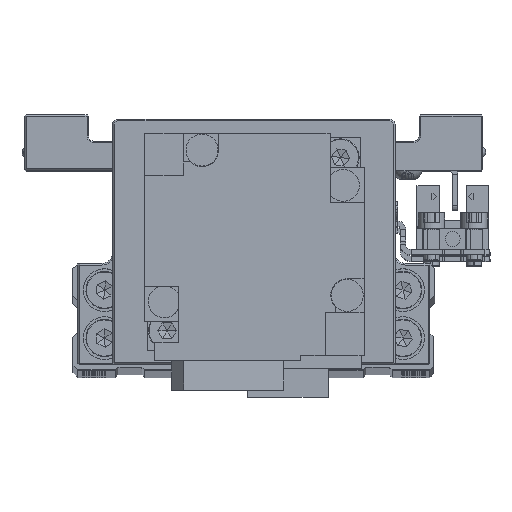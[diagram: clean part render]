
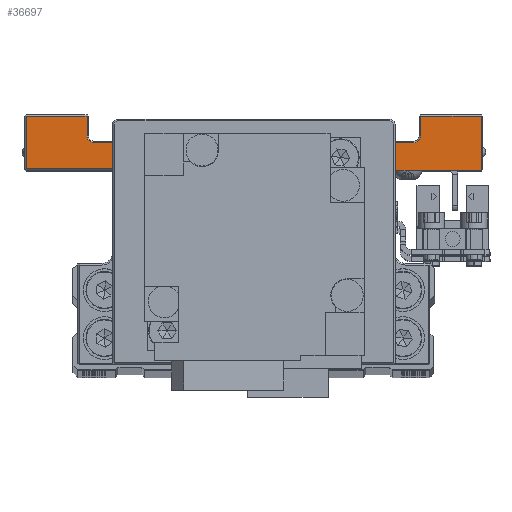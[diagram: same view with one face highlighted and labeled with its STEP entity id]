
A CAD part, top view. The second image highlights one B-rep face of the part: STEP entity #36697.
In plain terms, the highlighted planar face has unit normal (0, 0, 1) as drawn and (1, 0, 0) by its records, which use the part's own axes.
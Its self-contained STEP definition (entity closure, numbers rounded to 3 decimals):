
#58 = CIRCLE ( 'NONE', #21647, 1.3 ) ;
#480 = VERTEX_POINT ( 'NONE', #8714 ) ;
#888 = DIRECTION ( 'NONE',  ( -1., 0., 0. ) ) ;
#959 = EDGE_CURVE ( 'NONE', #33528, #6989, #2004, .T. ) ;
#1001 = CARTESIAN_POINT ( 'NONE',  ( 45., 7.5, -19.7 ) ) ;
#1495 = VECTOR ( 'NONE', #25555, 1000. ) ;
#1501 = VECTOR ( 'NONE', #26726, 1000. ) ;
#1578 = DIRECTION ( 'NONE',  ( 0., 0., 1. ) ) ;
#2004 = LINE ( 'NONE', #13766, #1495 ) ;
#2280 = VERTEX_POINT ( 'NONE', #33688 ) ;
#2462 = AXIS2_PLACEMENT_3D ( 'NONE', #35880, #9461, #21274 ) ;
#2513 = DIRECTION ( 'NONE',  ( 0., 0., -1. ) ) ;
#2993 = CARTESIAN_POINT ( 'NONE',  ( 45., 12.7, -30. ) ) ;
#3002 = VERTEX_POINT ( 'NONE', #6559 ) ;
#3179 = LINE ( 'NONE', #14953, #1501 ) ;
#3183 = ORIENTED_EDGE ( 'NONE', *, *, #5054, .T. ) ;
#3766 = VECTOR ( 'NONE', #33837, 1000. ) ;
#3843 = CARTESIAN_POINT ( 'NONE',  ( 45., 7.5, 42.7 ) ) ;
#4781 = DIRECTION ( 'NONE',  ( 0., 1., 0. ) ) ;
#5054 = EDGE_CURVE ( 'NONE', #8580, #12825, #16242, .T. ) ;
#5564 = CARTESIAN_POINT ( 'NONE',  ( 45., 17.7, -31.3 ) ) ;
#5930 = CARTESIAN_POINT ( 'NONE',  ( 45., 7.5, 31.3 ) ) ;
#6156 = LINE ( 'NONE', #17954, #26961 ) ;
#6494 = ORIENTED_EDGE ( 'NONE', *, *, #959, .T. ) ;
#6559 = CARTESIAN_POINT ( 'NONE',  ( 45., 7.8, 19.7 ) ) ;
#6834 = VERTEX_POINT ( 'NONE', #16400 ) ;
#6989 = VERTEX_POINT ( 'NONE', #5564 ) ;
#7083 = VECTOR ( 'NONE', #19714, 1000. ) ;
#7780 = DIRECTION ( 'NONE',  ( 0., 0., 1. ) ) ;
#7913 = CARTESIAN_POINT ( 'NONE',  ( 45., 7.5, 43. ) ) ;
#7927 = LINE ( 'NONE', #19727, #24070 ) ;
#8016 = CARTESIAN_POINT ( 'NONE',  ( 45., 7.5, -42.7 ) ) ;
#8580 = VERTEX_POINT ( 'NONE', #16364 ) ;
#8714 = CARTESIAN_POINT ( 'NONE',  ( 45., 12.7, 30. ) ) ;
#9210 = AXIS2_PLACEMENT_3D ( 'NONE', #22480, #34205, #7780 ) ;
#9311 = VERTEX_POINT ( 'NONE', #8016 ) ;
#9461 = DIRECTION ( 'NONE',  ( -1., 0., 0. ) ) ;
#9990 = EDGE_CURVE ( 'NONE', #12825, #6834, #30290, .T. ) ;
#10087 = EDGE_CURVE ( 'NONE', #9311, #33528, #19484, .T. ) ;
#10301 = LINE ( 'NONE', #22114, #3766 ) ;
#10673 = PLANE ( 'NONE',  #9210 ) ;
#12245 = EDGE_CURVE ( 'NONE', #32296, #21156, #10301, .T. ) ;
#12648 = DIRECTION ( 'NONE',  ( 0., 0., 1. ) ) ;
#12762 = DIRECTION ( 'NONE',  ( 0., 1., 0. ) ) ;
#12825 = VERTEX_POINT ( 'NONE', #13739 ) ;
#13481 = ORIENTED_EDGE ( 'NONE', *, *, #32892, .T. ) ;
#13739 = CARTESIAN_POINT ( 'NONE',  ( 45., 17.7, 42.7 ) ) ;
#13766 = CARTESIAN_POINT ( 'NONE',  ( 45., 17.7, -20. ) ) ;
#14446 = CARTESIAN_POINT ( 'NONE',  ( 45., 14., 31.3 ) ) ;
#14953 = CARTESIAN_POINT ( 'NONE',  ( 45., 12.7, 30. ) ) ;
#15630 = DIRECTION ( 'NONE',  ( 0., -1., 0. ) ) ;
#16242 = LINE ( 'NONE', #28018, #37793 ) ;
#16364 = CARTESIAN_POINT ( 'NONE',  ( 45., 17.7, 31.3 ) ) ;
#16400 = CARTESIAN_POINT ( 'NONE',  ( 45., 7.8, 42.7 ) ) ;
#17188 = LINE ( 'NONE', #28952, #20796 ) ;
#17479 = VERTEX_POINT ( 'NONE', #14446 ) ;
#17720 = DIRECTION ( 'NONE',  ( 0., 1., 0. ) ) ;
#17954 = CARTESIAN_POINT ( 'NONE',  ( 45., 7.5, -31.3 ) ) ;
#17985 = ORIENTED_EDGE ( 'NONE', *, *, #27212, .T. ) ;
#18444 = VECTOR ( 'NONE', #4781, 1000. ) ;
#19108 = CIRCLE ( 'NONE', #2462, 1.3 ) ;
#19484 = LINE ( 'NONE', #31221, #18444 ) ;
#19714 = DIRECTION ( 'NONE',  ( 0., 0., -1. ) ) ;
#19727 = CARTESIAN_POINT ( 'NONE',  ( 45., 7.5, 19.7 ) ) ;
#20030 = ORIENTED_EDGE ( 'NONE', *, *, #37193, .T. ) ;
#20796 = VECTOR ( 'NONE', #2513, 1000. ) ;
#21156 = VERTEX_POINT ( 'NONE', #22270 ) ;
#21274 = DIRECTION ( 'NONE',  ( 0., 0., 1. ) ) ;
#21647 = AXIS2_PLACEMENT_3D ( 'NONE', #27319, #888, #12648 ) ;
#21799 = ORIENTED_EDGE ( 'NONE', *, *, #31466, .T. ) ;
#22114 = CARTESIAN_POINT ( 'NONE',  ( 45., -8.2, -20. ) ) ;
#22270 = CARTESIAN_POINT ( 'NONE',  ( 45., -8.2, -19.7 ) ) ;
#22311 = EDGE_CURVE ( 'NONE', #2280, #27671, #19108, .T. ) ;
#22480 = CARTESIAN_POINT ( 'NONE',  ( 45., 7.5, -20. ) ) ;
#23637 = EDGE_CURVE ( 'NONE', #21156, #31368, #27437, .T. ) ;
#24070 = VECTOR ( 'NONE', #31469, 1000. ) ;
#24848 = ORIENTED_EDGE ( 'NONE', *, *, #22311, .T. ) ;
#24954 = ORIENTED_EDGE ( 'NONE', *, *, #32252, .T. ) ;
#25555 = DIRECTION ( 'NONE',  ( 0., 0., 1. ) ) ;
#26726 = DIRECTION ( 'NONE',  ( 0., 0., 1. ) ) ;
#26961 = VECTOR ( 'NONE', #29711, 1000. ) ;
#27212 = EDGE_CURVE ( 'NONE', #6834, #3002, #17188, .T. ) ;
#27316 = EDGE_CURVE ( 'NONE', #6989, #2280, #6156, .T. ) ;
#27319 = CARTESIAN_POINT ( 'NONE',  ( 45., 14., 30. ) ) ;
#27437 = LINE ( 'NONE', #1001, #31546 ) ;
#27671 = VERTEX_POINT ( 'NONE', #2993 ) ;
#27835 = CARTESIAN_POINT ( 'NONE',  ( 45., 17.7, -42.7 ) ) ;
#28018 = CARTESIAN_POINT ( 'NONE',  ( 45., 17.7, -20. ) ) ;
#28904 = VECTOR ( 'NONE', #15630, 1000. ) ;
#28952 = CARTESIAN_POINT ( 'NONE',  ( 45., 7.8, 20. ) ) ;
#29203 = ORIENTED_EDGE ( 'NONE', *, *, #27316, .T. ) ;
#29711 = DIRECTION ( 'NONE',  ( 0., -1., 0. ) ) ;
#29936 = VECTOR ( 'NONE', #17720, 1000. ) ;
#30075 = ORIENTED_EDGE ( 'NONE', *, *, #9990, .T. ) ;
#30290 = LINE ( 'NONE', #3843, #28904 ) ;
#31221 = CARTESIAN_POINT ( 'NONE',  ( 45., 7.5, -42.7 ) ) ;
#31368 = VERTEX_POINT ( 'NONE', #34985 ) ;
#31466 = EDGE_CURVE ( 'NONE', #27671, #480, #3179, .T. ) ;
#31469 = DIRECTION ( 'NONE',  ( 0., -1., 0. ) ) ;
#31546 = VECTOR ( 'NONE', #12762, 1000. ) ;
#31637 = CARTESIAN_POINT ( 'NONE',  ( 45., -8.2, 19.7 ) ) ;
#31802 = ORIENTED_EDGE ( 'NONE', *, *, #12245, .T. ) ;
#32252 = EDGE_CURVE ( 'NONE', #31368, #9311, #34329, .T. ) ;
#32296 = VERTEX_POINT ( 'NONE', #31637 ) ;
#32342 = LINE ( 'NONE', #5930, #29936 ) ;
#32892 = EDGE_CURVE ( 'NONE', #17479, #8580, #32342, .T. ) ;
#33127 = EDGE_LOOP ( 'NONE', ( #34103, #24954, #37926, #6494, #29203, #24848, #21799, #34274, #13481, #3183, #30075, #17985, #20030, #31802 ) ) ;
#33528 = VERTEX_POINT ( 'NONE', #27835 ) ;
#33688 = CARTESIAN_POINT ( 'NONE',  ( 45., 14., -31.3 ) ) ;
#33837 = DIRECTION ( 'NONE',  ( 0., 0., -1. ) ) ;
#34103 = ORIENTED_EDGE ( 'NONE', *, *, #23637, .T. ) ;
#34205 = DIRECTION ( 'NONE',  ( -1., 0., 0. ) ) ;
#34274 = ORIENTED_EDGE ( 'NONE', *, *, #37864, .T. ) ;
#34329 = LINE ( 'NONE', #7913, #7083 ) ;
#34985 = CARTESIAN_POINT ( 'NONE',  ( 45., 7.5, -19.7 ) ) ;
#35880 = CARTESIAN_POINT ( 'NONE',  ( 45., 14., -30. ) ) ;
#36697 = ADVANCED_FACE ( 'NONE', ( #37071 ), #10673, .F. ) ;
#37071 = FACE_OUTER_BOUND ( 'NONE', #33127, .T. ) ;
#37193 = EDGE_CURVE ( 'NONE', #3002, #32296, #7927, .T. ) ;
#37793 = VECTOR ( 'NONE', #1578, 1000. ) ;
#37864 = EDGE_CURVE ( 'NONE', #480, #17479, #58, .T. ) ;
#37926 = ORIENTED_EDGE ( 'NONE', *, *, #10087, .T. ) ;
